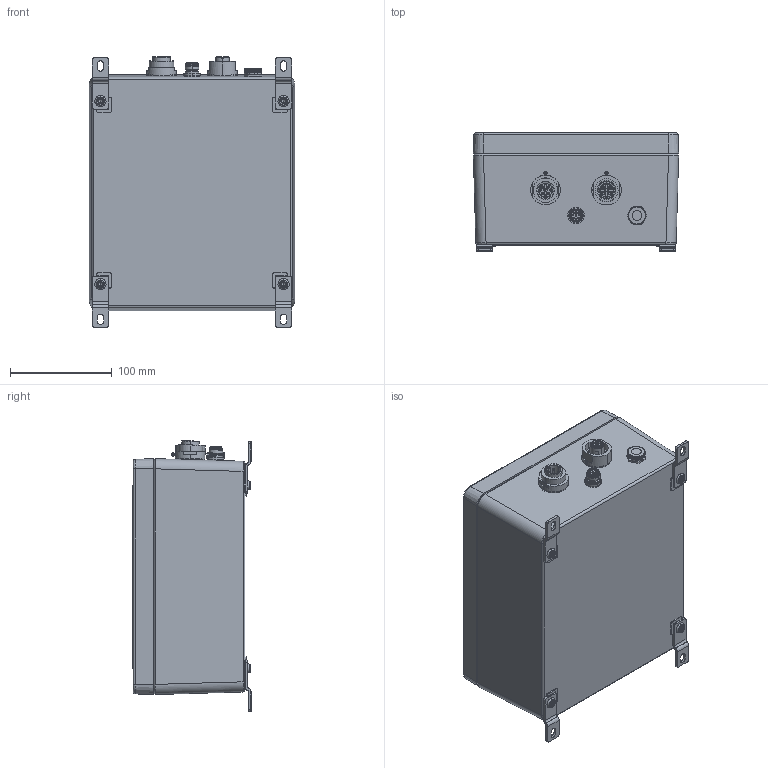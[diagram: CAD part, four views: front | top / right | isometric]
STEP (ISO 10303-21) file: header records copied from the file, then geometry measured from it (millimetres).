
FILE_DESCRIPTION (( 'STEP AP214' ), '1' );
FILE_NAME ('UPSI-IP-2 Series.STEP', '2023-01-26T15:29:01', ( '' ), ( '' ), 'SwSTEP 2.0', 'SolidWorks 2022', '' );
FILE_SCHEMA (( 'AUTOMOTIVE_DESIGN' ));
Length unit declared in the file: millimetre
Products named in the file (1): UPSI-IP-2 Series
Bounding box: 202 x 116.2 x 266.19 mm (x, y, z)
Volume: 5118283.5 mm3; surface area: 375512.8 mm2
Topology: 20 solids, 23 shells, 2417 faces, 6018 edges, 3744 vertices
Faces by surface type: plane 956, cylinder 759, bspline 248, cone 226, torus 191, sphere 37
Entity records: 113678 total; most frequent: CARTESIAN_POINT 30261, DIRECTION 11970, ORIENTED_EDGE 11880, EDGE_CURVE 5940, AXIS2_PLACEMENT_3D 4692, VERTEX_POINT 3734, EDGE_LOOP 2630, LINE 2586
